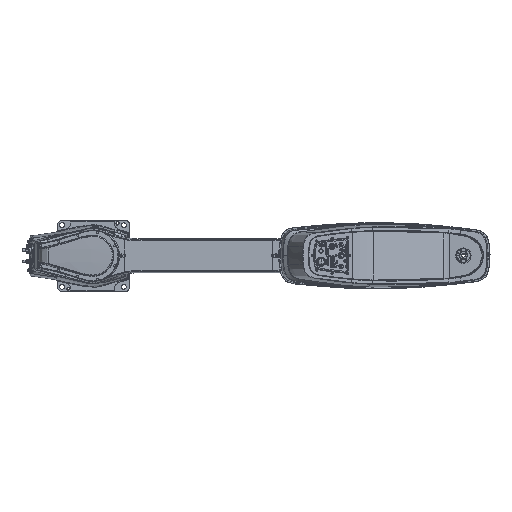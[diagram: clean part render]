
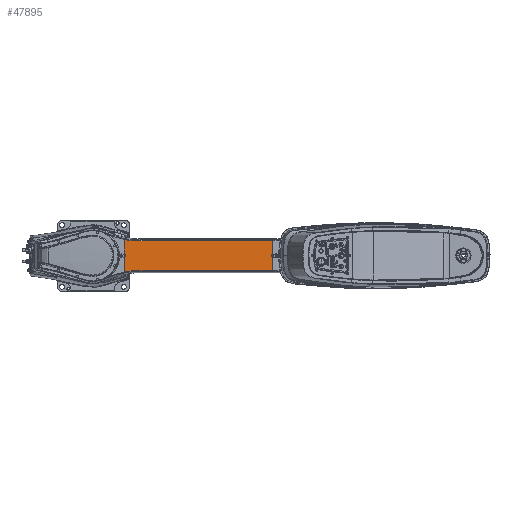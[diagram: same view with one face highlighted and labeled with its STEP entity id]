
A CAD part, top view. The second image highlights one B-rep face of the part: STEP entity #47895.
In plain terms, the highlighted planar face has unit normal (0.017, 0, 1) as drawn and (-0.017, 0, 1) by its records, which use the part's own axes.
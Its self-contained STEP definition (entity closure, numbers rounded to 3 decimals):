
#25319=ELLIPSE('',#168665,5.001,5.);
#25320=ELLIPSE('',#168666,5.001,5.);
#32329=FACE_OUTER_BOUND('',#64177,.T.);
#39559=B_SPLINE_CURVE_WITH_KNOTS('',3,(#362248,#362249,#362250,#362251,
#362252,#362253,#362254,#362255),.UNSPECIFIED.,.F.,.F.,(4,2,2,4),(0.,0.5,
0.75,1.),.UNSPECIFIED.);
#39560=B_SPLINE_CURVE_WITH_KNOTS('',3,(#362264,#362265,#362266,#362267,
#362268,#362269,#362270,#362271),.UNSPECIFIED.,.F.,.F.,(4,2,2,4),(0.,0.25,
0.5,1.),.UNSPECIFIED.);
#47895=ADVANCED_FACE('',(#32329),#51154,.T.);
#51154=PLANE('',#168667);
#64177=EDGE_LOOP('',(#118281,#118282,#118283,#118284,#118285,#118286,#118287,
#118288,#118289,#118290,#118291,#118292));
#71602=LINE('',#361236,#79533);
#71604=LINE('',#361248,#79535);
#71620=LINE('',#362242,#79551);
#71621=LINE('',#362246,#79552);
#71622=LINE('',#362257,#79553);
#71623=LINE('',#362259,#79554);
#71624=LINE('',#362263,#79555);
#71625=LINE('',#362273,#79556);
#79533=VECTOR('',#200811,1.);
#79535=VECTOR('',#200817,1.);
#79551=VECTOR('',#200889,1.);
#79552=VECTOR('',#200892,1.);
#79553=VECTOR('',#200893,1.);
#79554=VECTOR('',#200894,1.);
#79555=VECTOR('',#200897,1.);
#79556=VECTOR('',#200898,1.);
#118281=ORIENTED_EDGE('',*,*,#151080,.T.);
#118282=ORIENTED_EDGE('',*,*,#151081,.T.);
#118283=ORIENTED_EDGE('',*,*,#150981,.T.);
#118284=ORIENTED_EDGE('',*,*,#151082,.T.);
#118285=ORIENTED_EDGE('',*,*,#151083,.T.);
#118286=ORIENTED_EDGE('',*,*,#151084,.T.);
#118287=ORIENTED_EDGE('',*,*,#151085,.T.);
#118288=ORIENTED_EDGE('',*,*,#151086,.T.);
#118289=ORIENTED_EDGE('',*,*,#151087,.T.);
#118290=ORIENTED_EDGE('',*,*,#150985,.T.);
#118291=ORIENTED_EDGE('',*,*,#151088,.T.);
#118292=ORIENTED_EDGE('',*,*,#151089,.T.);
#131498=VERTEX_POINT('',#361237);
#131499=VERTEX_POINT('',#361238);
#131502=VERTEX_POINT('',#361249);
#131503=VERTEX_POINT('',#361250);
#131578=VERTEX_POINT('',#362243);
#131579=VERTEX_POINT('',#362244);
#131580=VERTEX_POINT('',#362247);
#131581=VERTEX_POINT('',#362256);
#131582=VERTEX_POINT('',#362258);
#131583=VERTEX_POINT('',#362260);
#131584=VERTEX_POINT('',#362262);
#131585=VERTEX_POINT('',#362272);
#150981=EDGE_CURVE('',#131498,#131499,#71602,.T.);
#150985=EDGE_CURVE('',#131502,#131503,#71604,.T.);
#151080=EDGE_CURVE('',#131578,#131579,#71620,.T.);
#151081=EDGE_CURVE('',#131579,#131498,#25319,.T.);
#151082=EDGE_CURVE('',#131499,#131580,#71621,.T.);
#151083=EDGE_CURVE('',#131580,#131581,#39559,.T.);
#151084=EDGE_CURVE('',#131581,#131582,#71622,.T.);
#151085=EDGE_CURVE('',#131582,#131583,#71623,.T.);
#151086=EDGE_CURVE('',#131583,#131584,#25320,.T.);
#151087=EDGE_CURVE('',#131584,#131502,#71624,.T.);
#151088=EDGE_CURVE('',#131503,#131585,#39560,.T.);
#151089=EDGE_CURVE('',#131585,#131578,#71625,.T.);
#168665=AXIS2_PLACEMENT_3D('',#362245,#200890,#200891);
#168666=AXIS2_PLACEMENT_3D('',#362261,#200895,#200896);
#168667=AXIS2_PLACEMENT_3D('',#362274,#200899,#200900);
#200811=DIRECTION('',(0.,-1.,0.));
#200817=DIRECTION('',(0.,1.,0.));
#200889=DIRECTION('',(0.,-1.,0.));
#200890=DIRECTION('',(0.017,0.,-1.));
#200891=DIRECTION('',(1.,0.,0.017));
#200892=DIRECTION('',(1.,0.001,0.017));
#200893=DIRECTION('',(0.,1.,0.));
#200894=DIRECTION('',(-0.994,0.111,-0.017));
#200895=DIRECTION('',(0.017,0.,-1.));
#200896=DIRECTION('',(1.,0.,0.017));
#200897=DIRECTION('',(0.994,0.111,0.017));
#200898=DIRECTION('',(-1.,0.001,-0.017));
#200899=DIRECTION('',(-0.017,0.,1.));
#200900=DIRECTION('',(0.,1.,0.));
#361236=CARTESIAN_POINT('',(-581.915,-0.004,87.001));
#361237=CARTESIAN_POINT('',(-581.915,-4.557,87.001));
#361238=CARTESIAN_POINT('',(-581.915,-48.85,87.001));
#361248=CARTESIAN_POINT('',(-102.082,-0.004,94.999));
#361249=CARTESIAN_POINT('',(-102.082,5.016,94.999));
#361250=CARTESIAN_POINT('',(-102.082,52.467,94.999));
#362242=CARTESIAN_POINT('',(-581.915,-0.004,87.001));
#362243=CARTESIAN_POINT('',(-581.915,48.842,87.001));
#362244=CARTESIAN_POINT('',(-581.915,4.549,87.001));
#362245=CARTESIAN_POINT('',(-583.982,-0.004,86.967));
#362246=CARTESIAN_POINT('',(-196.041,-48.4,93.433));
#362247=CARTESIAN_POINT('',(-196.088,-48.4,93.432));
#362248=CARTESIAN_POINT('',(-196.088,-48.4,93.432));
#362249=CARTESIAN_POINT('',(-180.368,-48.382,93.694));
#362250=CARTESIAN_POINT('',(-164.648,-48.306,93.956));
#362251=CARTESIAN_POINT('',(-141.068,-48.506,94.349));
#362252=CARTESIAN_POINT('',(-133.212,-48.618,94.48));
#362253=CARTESIAN_POINT('',(-117.583,-49.806,94.74));
#362254=CARTESIAN_POINT('',(-109.815,-50.937,94.87));
#362255=CARTESIAN_POINT('',(-102.082,-52.475,94.999));
#362256=CARTESIAN_POINT('',(-102.082,-52.475,94.999));
#362257=CARTESIAN_POINT('',(-102.082,-0.004,94.999));
#362258=CARTESIAN_POINT('',(-102.082,-5.024,94.999));
#362259=CARTESIAN_POINT('',(-102.554,-4.971,94.991));
#362260=CARTESIAN_POINT('',(-102.538,-4.973,94.991));
#362261=CARTESIAN_POINT('',(-101.982,-0.004,95.));
#362262=CARTESIAN_POINT('',(-102.538,4.965,94.991));
#362263=CARTESIAN_POINT('',(-102.193,5.003,94.997));
#362264=CARTESIAN_POINT('',(-102.082,52.467,94.999));
#362265=CARTESIAN_POINT('',(-109.815,50.928,94.87));
#362266=CARTESIAN_POINT('',(-117.584,49.797,94.74));
#362267=CARTESIAN_POINT('',(-133.213,48.61,94.48));
#362268=CARTESIAN_POINT('',(-141.069,48.498,94.349));
#362269=CARTESIAN_POINT('',(-164.648,48.298,93.956));
#362270=CARTESIAN_POINT('',(-180.368,48.374,93.694));
#362271=CARTESIAN_POINT('',(-196.088,48.392,93.432));
#362272=CARTESIAN_POINT('',(-196.088,48.392,93.432));
#362273=CARTESIAN_POINT('',(-581.919,48.842,87.001));
#362274=CARTESIAN_POINT('',(-101.999,-0.004,95.));
